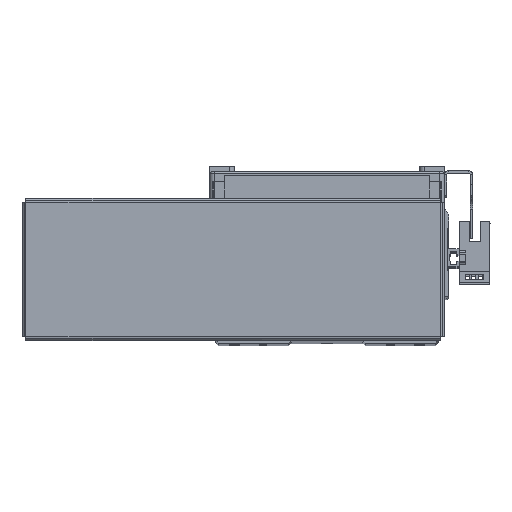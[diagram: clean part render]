
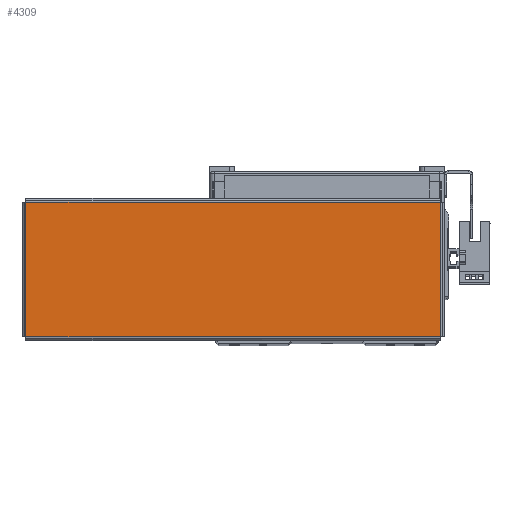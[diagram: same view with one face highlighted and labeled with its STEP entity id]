
A CAD part, top view. The second image highlights one B-rep face of the part: STEP entity #4309.
In plain terms, the highlighted planar face has unit normal (0, 0, 1) as drawn and (0, -1, 0) by its records, which use the part's own axes.
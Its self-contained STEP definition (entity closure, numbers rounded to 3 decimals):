
#928 = CARTESIAN_POINT ( 'NONE',  ( -91.863, -1., 29.793 ) ) ;
#934 = DIRECTION ( 'NONE',  ( 0., 0., -1. ) ) ;
#983 = CARTESIAN_POINT ( 'NONE',  ( 91.893, -1., 29.763 ) ) ;
#985 = DIRECTION ( 'NONE',  ( -1., 0., 0. ) ) ;
#1002 = DIRECTION ( 'NONE',  ( 1., 0., 0. ) ) ;
#1036 = CARTESIAN_POINT ( 'NONE',  ( -91.893, -1., -29.763 ) ) ;
#1193 = CARTESIAN_POINT ( 'NONE',  ( 91.863, -1., -29.793 ) ) ;
#1194 = DIRECTION ( 'NONE',  ( 0., 0., 1. ) ) ;
#4309 = ADVANCED_FACE ( 'NONE', ( #23692 ), #57425, .F. ) ;
#14551 = VERTEX_POINT ( 'NONE', #54997 ) ;
#14552 = VERTEX_POINT ( 'NONE', #55032 ) ;
#14602 = VERTEX_POINT ( 'NONE', #55082 ) ;
#14652 = VERTEX_POINT ( 'NONE', #55129 ) ;
#23692 = FACE_OUTER_BOUND ( 'NONE', #36148, .T. ) ;
#24627 = ORIENTED_EDGE ( 'NONE', *, *, #38258, .T. ) ;
#24634 = ORIENTED_EDGE ( 'NONE', *, *, #38329, .T. ) ;
#24641 = ORIENTED_EDGE ( 'NONE', *, *, #38299, .T. ) ;
#24647 = ORIENTED_EDGE ( 'NONE', *, *, #38434, .T. ) ;
#36148 = EDGE_LOOP ( 'NONE', ( #24634, #24647, #24641, #24627 ) ) ;
#38258 = EDGE_CURVE ( 'NONE', #14652, #14551, #42781, .T. ) ;
#38299 = EDGE_CURVE ( 'NONE', #14602, #14652, #42701, .T. ) ;
#38329 = EDGE_CURVE ( 'NONE', #14551, #14552, #42844, .T. ) ;
#38434 = EDGE_CURVE ( 'NONE', #14552, #14602, #58805, .T. ) ;
#42690 = VECTOR ( 'NONE', #934, 1000. ) ;
#42701 = LINE ( 'NONE', #983, #42708 ) ;
#42708 = VECTOR ( 'NONE', #985, 1000. ) ;
#42781 = LINE ( 'NONE', #928, #42690 ) ;
#42844 = LINE ( 'NONE', #1036, #42868 ) ;
#42868 = VECTOR ( 'NONE', #1002, 1000. ) ;
#52236 = AXIS2_PLACEMENT_3D ( 'NONE', #57475, #57488, #57476 ) ;
#54997 = CARTESIAN_POINT ( 'NONE',  ( -91.863, -1., -29.763 ) ) ;
#55032 = CARTESIAN_POINT ( 'NONE',  ( 91.863, -1., -29.763 ) ) ;
#55082 = CARTESIAN_POINT ( 'NONE',  ( 91.863, -1., 29.763 ) ) ;
#55129 = CARTESIAN_POINT ( 'NONE',  ( -91.863, -1., 29.763 ) ) ;
#57425 = PLANE ( 'NONE',  #52236 ) ;
#57475 = CARTESIAN_POINT ( 'NONE',  ( 0., -1., 0. ) ) ;
#57476 = DIRECTION ( 'NONE',  ( 0., 0., 1. ) ) ;
#57488 = DIRECTION ( 'NONE',  ( 0., 1., 0. ) ) ;
#58782 = VECTOR ( 'NONE', #1194, 1000. ) ;
#58805 = LINE ( 'NONE', #1193, #58782 ) ;
